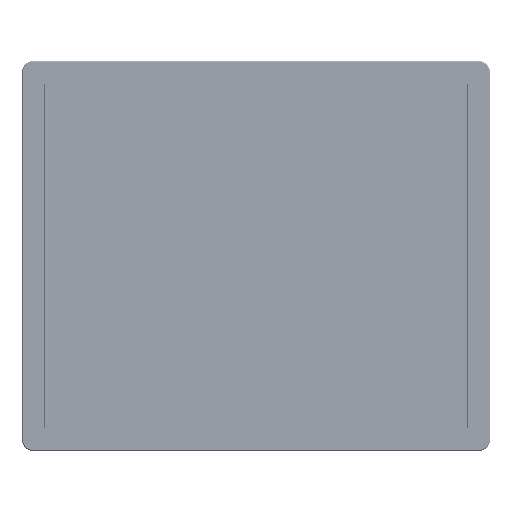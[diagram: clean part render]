
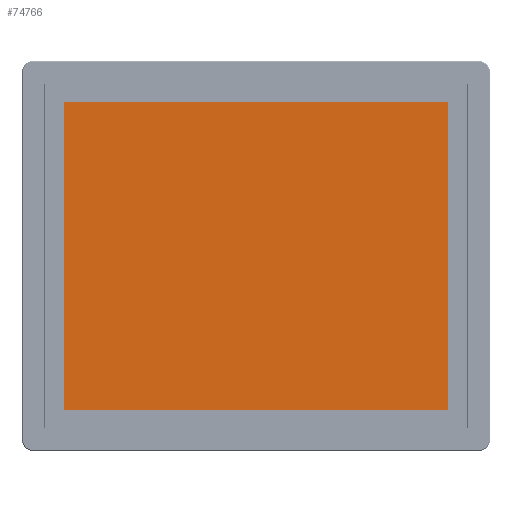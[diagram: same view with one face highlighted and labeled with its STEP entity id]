
A CAD part, top view. The second image highlights one B-rep face of the part: STEP entity #74766.
In plain terms, the highlighted planar face has unit normal (0, 0, 1).
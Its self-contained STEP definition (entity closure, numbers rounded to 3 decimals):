
#31185=LINE('',#564222,#50928);
#31189=LINE('',#564231,#50932);
#31192=LINE('',#564237,#50935);
#31195=LINE('',#564243,#50938);
#50928=VECTOR('',#338069,1.);
#50932=VECTOR('',#338075,1.);
#50935=VECTOR('',#338080,1.);
#50938=VECTOR('',#338085,1.);
#74766=ADVANCED_FACE('',(#96220),#81224,.T.);
#81224=PLANE('',#278814);
#96220=FACE_OUTER_BOUND('',#112616,.T.);
#112616=EDGE_LOOP('',(#183526,#183527,#183528,#183529));
#183526=ORIENTED_EDGE('',*,*,#247371,.T.);
#183527=ORIENTED_EDGE('',*,*,#247381,.T.);
#183528=ORIENTED_EDGE('',*,*,#247378,.T.);
#183529=ORIENTED_EDGE('',*,*,#247375,.T.);
#210611=VERTEX_POINT('',#564223);
#210612=VERTEX_POINT('',#564224);
#210615=VERTEX_POINT('',#564232);
#210617=VERTEX_POINT('',#564238);
#247371=EDGE_CURVE('',#210611,#210612,#31185,.T.);
#247375=EDGE_CURVE('',#210615,#210611,#31189,.T.);
#247378=EDGE_CURVE('',#210617,#210615,#31192,.T.);
#247381=EDGE_CURVE('',#210612,#210617,#31195,.T.);
#278814=AXIS2_PLACEMENT_3D('',#564247,#338091,#338092);
#338069=DIRECTION('',(0.,-1.,0.));
#338075=DIRECTION('',(-1.,0.,0.));
#338080=DIRECTION('',(0.,1.,0.));
#338085=DIRECTION('',(1.,0.,0.));
#338091=DIRECTION('',(0.,0.,1.));
#338092=DIRECTION('',(1.,0.,0.));
#564222=CARTESIAN_POINT('',(-208.353,148.698,11.25));
#564223=CARTESIAN_POINT('',(-208.353,148.698,11.25));
#564224=CARTESIAN_POINT('',(-208.353,-123.642,11.25));
#564231=CARTESIAN_POINT('',(-208.353,148.698,11.25));
#564232=CARTESIAN_POINT('',(131.567,148.698,11.25));
#564237=CARTESIAN_POINT('',(131.567,148.698,11.25));
#564238=CARTESIAN_POINT('',(131.567,-123.642,11.25));
#564243=CARTESIAN_POINT('',(-208.353,-123.642,11.25));
#564247=CARTESIAN_POINT('',(-38.393,168.028,11.25));
